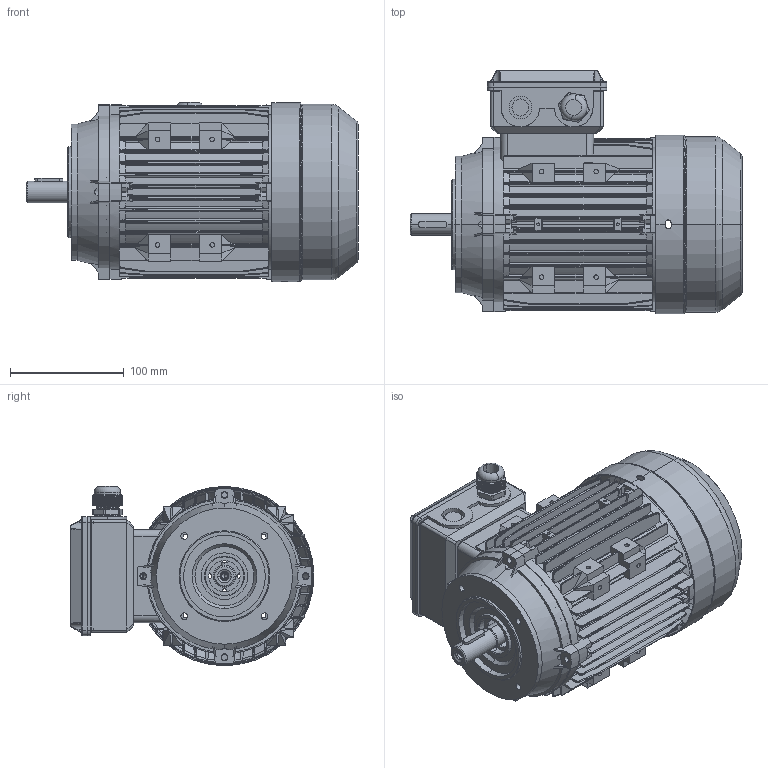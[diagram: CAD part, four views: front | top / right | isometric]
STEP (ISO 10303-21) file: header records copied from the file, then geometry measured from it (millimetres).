
FILE_DESCRIPTION (( 'STEP AP203' ), '1' );
FILE_NAME ('ME8024 assembly B14.STEP', '2013-01-11T11:17:53', ( '' ), ( '' ), 'SwSTEP 2.0', 'SolidWorks 2010', '' );
FILE_SCHEMA (( 'CONFIG_CONTROL_DESIGN' ));
Products named in the file (8): M80-Shaft drive end_S-2P; ME80傷裔B14; ME8024 assembly B14; ME80儂褲_樓馱; ME80瑞欶_076; MS100諉盄碟釱; MS100諉盄碟裔; M20 cable gland
Assembly tree (7 placements, depth 2):
  ME8024 assembly B14
    MS100諉盄碟釱
    M20 cable gland
    ME80瑞欶_076
    M80-Shaft drive end_S-2P
    MS100諉盄碟裔
    ME80傷裔B14
    ME80儂褲_樓馱
Bounding box: 292.49 x 214.8 x 157.79 mm (x, y, z)
Volume: 682103.1 mm3; surface area: 491695.4 mm2
Topology: 7 solids, 7 shells, 2712 faces, 7383 edges, 4723 vertices
Faces by surface type: plane 1204, cylinder 861, bspline 400, cone 138, torus 101, sphere 8
Entity records: 130896 total; most frequent: CARTESIAN_POINT 65215, ORIENTED_EDGE 14670, DIRECTION 11825, EDGE_CURVE 7335, VERTEX_POINT 4715, AXIS2_PLACEMENT_3D 4033, LINE 3759, VECTOR 3759
